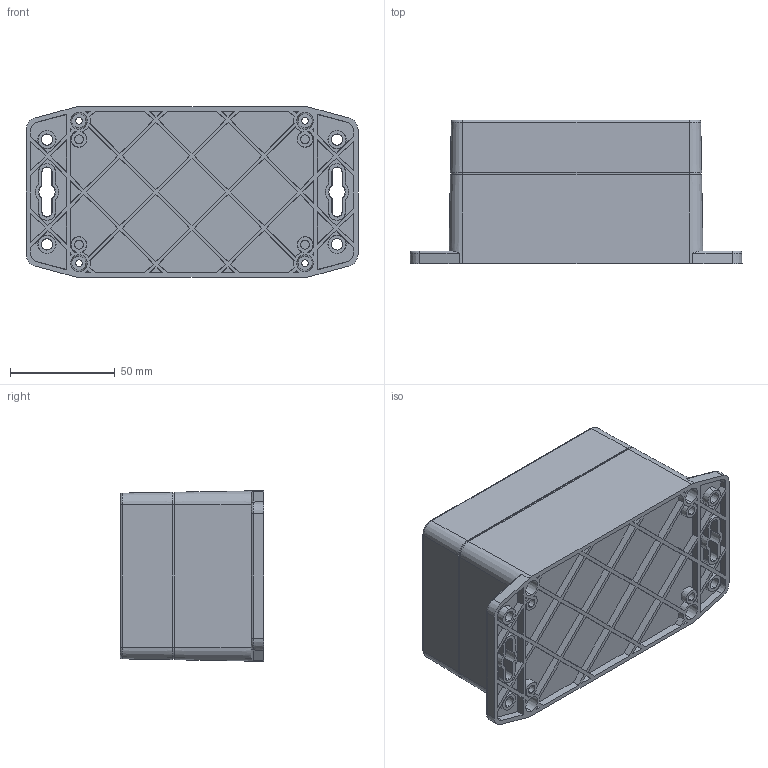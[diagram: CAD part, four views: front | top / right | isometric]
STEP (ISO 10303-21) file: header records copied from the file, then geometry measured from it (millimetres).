
FILE_DESCRIPTION (( 'STEP AP203' ), '1' );
FILE_NAME ('PF215.STEP', '2021-05-21T12:52:17', ( '' ), ( '' ), 'SwSTEP 2.0', 'SolidWorks 2021', '' );
FILE_SCHEMA (( 'CONFIG_CONTROL_DESIGN' ));
Length unit declared in the file: millimetre
Products named in the file (3): PF215
Assembly tree (2 placements, depth 2):
  PF215
    PF215
    PF215
Bounding box: 158.54 x 68.48 x 81.52 mm (x, y, z)
Volume: 169698.6 mm3; surface area: 119615.4 mm2
Topology: 2 solids, 2 shells, 765 faces, 1949 edges, 1294 vertices
Faces by surface type: plane 426, cone 247, cylinder 84, torus 8
Entity records: 23874 total; most frequent: CARTESIAN_POINT 4445, DIRECTION 4087, ORIENTED_EDGE 3898, EDGE_CURVE 1949, AXIS2_PLACEMENT_3D 1476, VERTEX_POINT 1294, LINE 1135, VECTOR 1135
